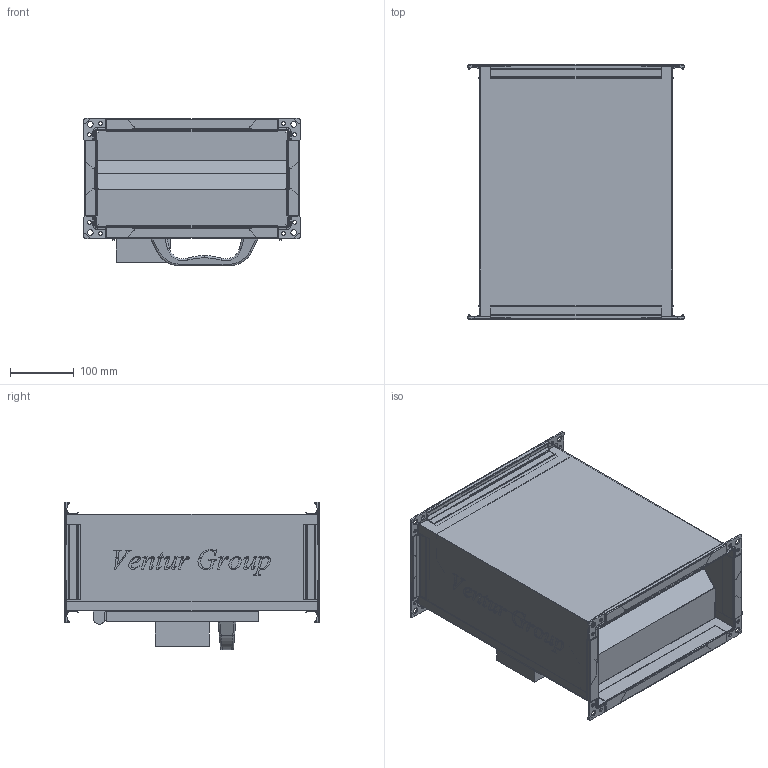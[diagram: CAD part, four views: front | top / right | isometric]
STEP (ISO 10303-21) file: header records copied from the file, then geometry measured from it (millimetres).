
FILE_DESCRIPTION(/* description */ (''),/* implementation_level */ '2;1');
FILE_NAME(/* name */ 'C:\Users\M.Janczarek\Documents\Modele uproszczone\IBF EC\IBF_EC_190S 41010015\IBF_EC_190S 41010015\IBF_EC_190S 41010015.stp',/* time_stamp */ '2018-03-29T16:32:37+02:00',/* author */ ('M.Janczarek'),/* organization */ (''),/* preprocessor_version */ 'ST-DEVELOPER v16.5',/* originating_system */ 'Autodesk Inventor 2017',/* authorisation */ '');
FILE_SCHEMA (('AUTOMOTIVE_DESIGN { 1 0 10303 214 3 1 1 }'));
Products named in the file (1): IBF_EC_190S 41010015
Bounding box: 339.97 x 401.6 x 232.49 mm (x, y, z)
Volume: 4444850.3 mm3; surface area: 1496347.8 mm2
Topology: 2 solids, 2 shells, 1728 faces, 4942 edges, 3183 vertices
Faces by surface type: plane 794, cylinder 470, bspline 356, torus 64, cone 28, sphere 16
Full cylindrical faces by diameter (mm): 6 x16, 7.1 x2, 9 x8, 130 x1, 208.732 x1
Entity records: 63404 total; most frequent: CARTESIAN_POINT 18527, ORIENTED_EDGE 9794, DIRECTION 8073, EDGE_CURVE 4897, VERTEX_POINT 3182, LINE 3031, VECTOR 3031, AXIS2_PLACEMENT_3D 2521
